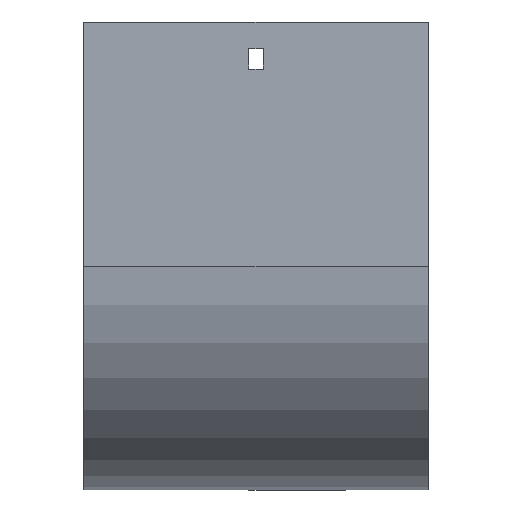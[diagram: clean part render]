
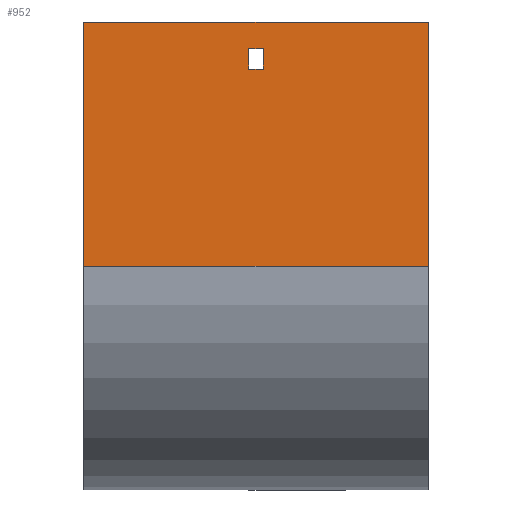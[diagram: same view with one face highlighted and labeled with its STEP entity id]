
A CAD part, front view. The second image highlights one B-rep face of the part: STEP entity #952.
In plain terms, the highlighted planar face has unit normal (0, -1, 0).
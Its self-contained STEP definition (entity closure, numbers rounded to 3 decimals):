
#13 = CARTESIAN_POINT ( 'NONE',  ( 3.25, -79., -21. ) ) ;
#30 = ORIENTED_EDGE ( 'NONE', *, *, #157, .F. ) ;
#31 = DIRECTION ( 'NONE',  ( -1., 0., 0. ) ) ;
#37 = VECTOR ( 'NONE', #31, 1000. ) ;
#39 = DIRECTION ( 'NONE',  ( 0., 0., -1. ) ) ;
#68 = EDGE_CURVE ( 'NONE', #779, #681, #1808, .T. ) ;
#102 = AXIS2_PLACEMENT_3D ( 'NONE', #428, #1030, #1628 ) ;
#122 = EDGE_CURVE ( 'NONE', #681, #1750, #1201, .T. ) ;
#146 = ORIENTED_EDGE ( 'NONE', *, *, #208, .F. ) ;
#157 = EDGE_CURVE ( 'NONE', #1034, #462, #1397, .T. ) ;
#208 = EDGE_CURVE ( 'NONE', #286, #1034, #210, .T. ) ;
#210 = LINE ( 'NONE', #663, #1617 ) ;
#228 = ORIENTED_EDGE ( 'NONE', *, *, #1100, .T. ) ;
#271 = VERTEX_POINT ( 'NONE', #637 ) ;
#283 = CARTESIAN_POINT ( 'NONE',  ( -3.25, -79., -12. ) ) ;
#284 = CARTESIAN_POINT ( 'NONE',  ( -77., -79., -109. ) ) ;
#286 = VERTEX_POINT ( 'NONE', #294 ) ;
#294 = CARTESIAN_POINT ( 'NONE',  ( 77., -79., 0. ) ) ;
#315 = CARTESIAN_POINT ( 'NONE',  ( 77., -79., 0. ) ) ;
#327 = VECTOR ( 'NONE', #1698, 1000. ) ;
#347 = EDGE_CURVE ( 'NONE', #286, #271, #1363, .T. ) ;
#404 = ORIENTED_EDGE ( 'NONE', *, *, #1524, .T. ) ;
#428 = CARTESIAN_POINT ( 'NONE',  ( 77., -79., -109. ) ) ;
#449 = DIRECTION ( 'NONE',  ( -1., 0., 0. ) ) ;
#462 = VERTEX_POINT ( 'NONE', #1580 ) ;
#542 = FACE_BOUND ( 'NONE', #908, .T. ) ;
#557 = EDGE_CURVE ( 'NONE', #271, #462, #1031, .T. ) ;
#587 = CARTESIAN_POINT ( 'NONE',  ( -3.25, -79., -21. ) ) ;
#614 = CARTESIAN_POINT ( 'NONE',  ( -3.25, -79., -12. ) ) ;
#637 = CARTESIAN_POINT ( 'NONE',  ( -77., -79., 0. ) ) ;
#640 = ORIENTED_EDGE ( 'NONE', *, *, #557, .T. ) ;
#641 = VECTOR ( 'NONE', #1081, 1000. ) ;
#658 = VECTOR ( 'NONE', #1656, 1000. ) ;
#663 = CARTESIAN_POINT ( 'NONE',  ( 77., -79., -109. ) ) ;
#681 = VERTEX_POINT ( 'NONE', #13 ) ;
#779 = VERTEX_POINT ( 'NONE', #905 ) ;
#905 = CARTESIAN_POINT ( 'NONE',  ( 3.25, -79., -12. ) ) ;
#908 = EDGE_LOOP ( 'NONE', ( #1345, #404, #228, #1468 ) ) ;
#952 = ADVANCED_FACE ( 'NONE', ( #542, #1169 ), #1180, .F. ) ;
#966 = VERTEX_POINT ( 'NONE', #283 ) ;
#1030 = DIRECTION ( 'NONE',  ( 0., 1., 0. ) ) ;
#1031 = LINE ( 'NONE', #284, #1054 ) ;
#1034 = VERTEX_POINT ( 'NONE', #1481 ) ;
#1054 = VECTOR ( 'NONE', #1161, 1000. ) ;
#1081 = DIRECTION ( 'NONE',  ( 0., 0., -1. ) ) ;
#1100 = EDGE_CURVE ( 'NONE', #966, #779, #1219, .T. ) ;
#1161 = DIRECTION ( 'NONE',  ( 0., 0., -1. ) ) ;
#1169 = FACE_OUTER_BOUND ( 'NONE', #1437, .T. ) ;
#1176 = VECTOR ( 'NONE', #1792, 1000. ) ;
#1180 = PLANE ( 'NONE',  #102 ) ;
#1201 = LINE ( 'NONE', #1795, #1368 ) ;
#1219 = LINE ( 'NONE', #614, #1176 ) ;
#1300 = ORIENTED_EDGE ( 'NONE', *, *, #347, .T. ) ;
#1345 = ORIENTED_EDGE ( 'NONE', *, *, #122, .T. ) ;
#1363 = LINE ( 'NONE', #315, #37 ) ;
#1368 = VECTOR ( 'NONE', #449, 1000. ) ;
#1370 = CARTESIAN_POINT ( 'NONE',  ( 3.25, -79., -21. ) ) ;
#1397 = LINE ( 'NONE', #1737, #327 ) ;
#1410 = LINE ( 'NONE', #587, #658 ) ;
#1437 = EDGE_LOOP ( 'NONE', ( #640, #30, #146, #1300 ) ) ;
#1468 = ORIENTED_EDGE ( 'NONE', *, *, #68, .T. ) ;
#1481 = CARTESIAN_POINT ( 'NONE',  ( 77., -79., -109. ) ) ;
#1524 = EDGE_CURVE ( 'NONE', #1750, #966, #1410, .T. ) ;
#1580 = CARTESIAN_POINT ( 'NONE',  ( -77., -79., -109. ) ) ;
#1617 = VECTOR ( 'NONE', #39, 1000. ) ;
#1628 = DIRECTION ( 'NONE',  ( 0., 0., 1. ) ) ;
#1656 = DIRECTION ( 'NONE',  ( 0., 0., 1. ) ) ;
#1698 = DIRECTION ( 'NONE',  ( -1., 0., 0. ) ) ;
#1737 = CARTESIAN_POINT ( 'NONE',  ( 77., -79., -109. ) ) ;
#1750 = VERTEX_POINT ( 'NONE', #1886 ) ;
#1792 = DIRECTION ( 'NONE',  ( 1., 0., 0. ) ) ;
#1795 = CARTESIAN_POINT ( 'NONE',  ( -3.25, -79., -21. ) ) ;
#1808 = LINE ( 'NONE', #1370, #641 ) ;
#1886 = CARTESIAN_POINT ( 'NONE',  ( -3.25, -79., -21. ) ) ;
